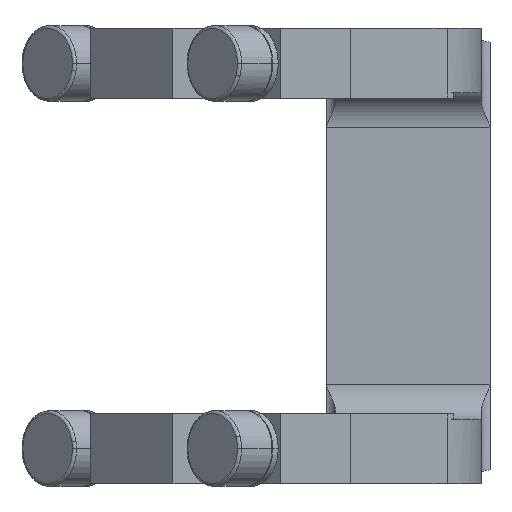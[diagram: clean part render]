
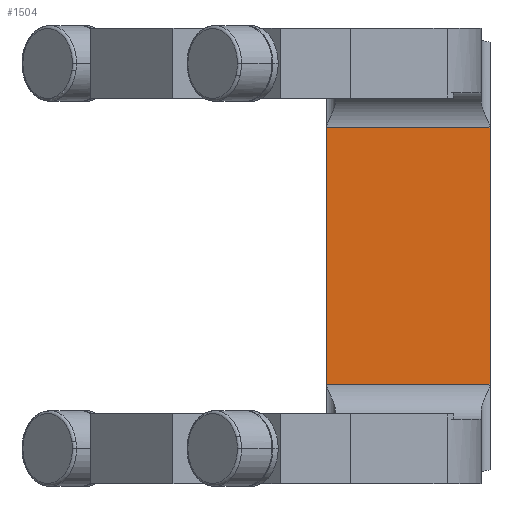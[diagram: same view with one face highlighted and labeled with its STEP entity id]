
A CAD part, front view. The second image highlights one B-rep face of the part: STEP entity #1504.
In plain terms, the highlighted planar face has unit normal (0, -1, 0).
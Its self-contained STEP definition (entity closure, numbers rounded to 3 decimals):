
#1328=CARTESIAN_POINT('Line Origine',(-4.5,80.,-22.)) ;
#1332=CARTESIAN_POINT('Vertex',(43.,80.,-22.)) ;
#1334=CARTESIAN_POINT('Vertex',(15.,80.,-22.)) ;
#1474=CARTESIAN_POINT('Axis2P3D Location',(43.,80.,22.)) ;
#1479=CARTESIAN_POINT('Line Origine',(15.,80.,0.)) ;
#1483=CARTESIAN_POINT('Vertex',(15.,80.,22.)) ;
#1486=CARTESIAN_POINT('Line Origine',(43.,80.,0.)) ;
#1490=CARTESIAN_POINT('Vertex',(43.,80.,22.)) ;
#1493=CARTESIAN_POINT('Line Origine',(29.,80.,22.)) ;
#1329=DIRECTION('Vector Direction',(1.,0.,0.)) ;
#1475=DIRECTION('Axis2P3D Direction',(0.,1.,0.)) ;
#1476=DIRECTION('Axis2P3D XDirection',(-0.,0.,-1.)) ;
#1480=DIRECTION('Vector Direction',(0.,0.,-1.)) ;
#1487=DIRECTION('Vector Direction',(0.,0.,-1.)) ;
#1494=DIRECTION('Vector Direction',(-1.,0.,0.)) ;
#1477=AXIS2_PLACEMENT_3D('Plane Axis2P3D',#1474,#1475,#1476) ;
#1499=ORIENTED_EDGE('',*,*,#1485,.F.) ;
#1500=ORIENTED_EDGE('',*,*,#1336,.F.) ;
#1501=ORIENTED_EDGE('',*,*,#1492,.T.) ;
#1502=ORIENTED_EDGE('',*,*,#1497,.T.) ;
#1330=VECTOR('Line Direction',#1329,1.) ;
#1481=VECTOR('Line Direction',#1480,1.) ;
#1488=VECTOR('Line Direction',#1487,1.) ;
#1495=VECTOR('Line Direction',#1494,1.) ;
#1504=ADVANCED_FACE('Brep With Voids',(#1503),#1478,.F.) ;
#1336=EDGE_CURVE('',#1333,#1335,#1331,.F.) ;
#1485=EDGE_CURVE('',#1335,#1484,#1482,.F.) ;
#1492=EDGE_CURVE('',#1333,#1491,#1489,.F.) ;
#1497=EDGE_CURVE('',#1491,#1484,#1496,.T.) ;
#1498=EDGE_LOOP('',(#1499,#1500,#1501,#1502)) ;
#1503=FACE_OUTER_BOUND('',#1498,.T.) ;
#1331=LINE('Line',#1328,#1330) ;
#1482=LINE('Line',#1479,#1481) ;
#1489=LINE('Line',#1486,#1488) ;
#1496=LINE('Line',#1493,#1495) ;
#1478=PLANE('Plane',#1477) ;
#1333=VERTEX_POINT('',#1332) ;
#1335=VERTEX_POINT('',#1334) ;
#1484=VERTEX_POINT('',#1483) ;
#1491=VERTEX_POINT('',#1490) ;
